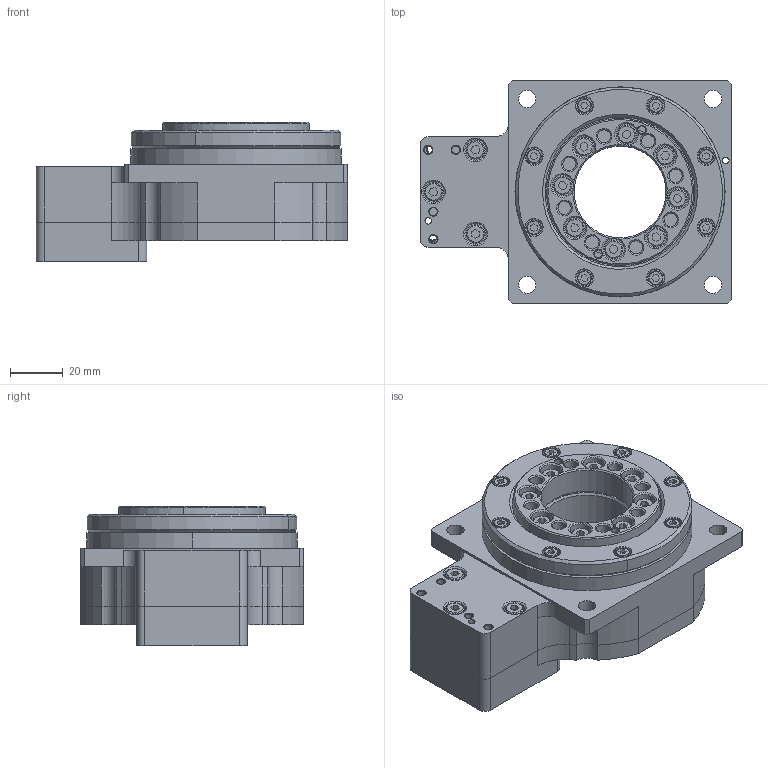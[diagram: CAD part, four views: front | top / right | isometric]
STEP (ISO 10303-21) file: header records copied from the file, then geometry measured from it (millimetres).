
FILE_DESCRIPTION (( 'STEP AP203' ), '1' );
FILE_NAME ('NT85-30-8-30-46-M4.STEP', '2014-01-24T05:11:22', ( ' ' ), ( '' ), 'SwSTEP 2.0', 'SolidWorks 2012', '' );
FILE_SCHEMA (( 'CONFIG_CONTROL_DESIGN' ));
Products named in the file (1): NT85-30-8-30-46-M4
Bounding box: 118.54 x 85 x 53 mm (x, y, z)
Surface area: 55052.8 mm2 (no closed solid volume)
Topology: 0 solids, 34 shells, 606 faces, 2309 edges, 1744 vertices
Faces by surface type: plane 234, cylinder 213, cone 159
Entity records: 39134 total; most frequent: CARTESIAN_POINT 19742, DIRECTION 4154, ORIENTED_EDGE 3630, EDGE_CURVE 2309, VERTEX_POINT 1744, AXIS2_PLACEMENT_3D 1630, CIRCLE 1023, LINE 894
